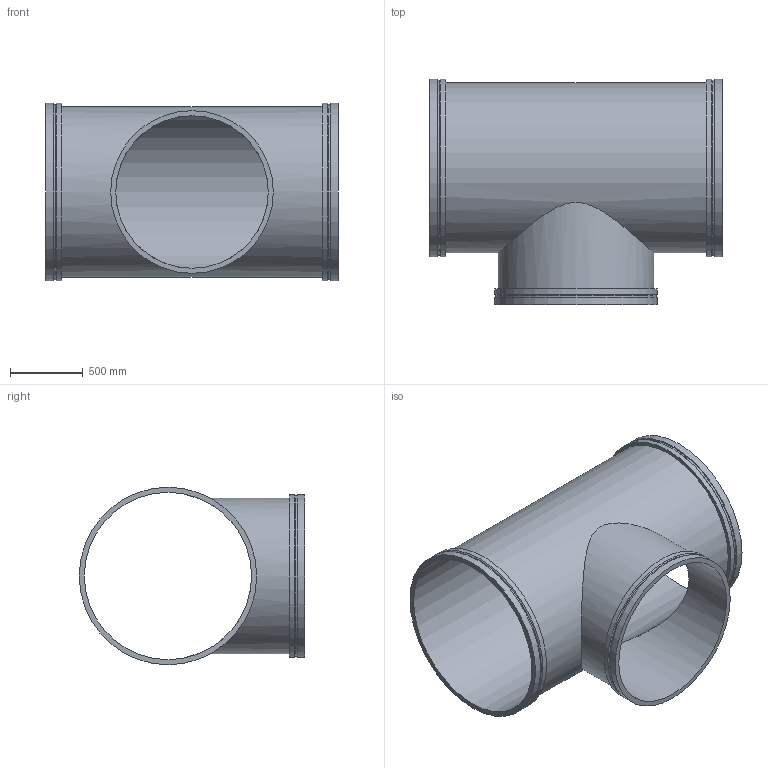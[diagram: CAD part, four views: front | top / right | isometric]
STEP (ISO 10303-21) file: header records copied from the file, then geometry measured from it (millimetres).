
FILE_DESCRIPTION(/* description */ ('VIC REDUCING TEE No W025 VR','CAx-IF Rec.Pracs.---Representation and Presentation of Product Manufacturing Information (PMI)---4.0---2014-10-13'),/* implementation_level */ '2;1');
FILE_NAME(/* name */ 'C:\Users\kkamble\AppData\Roaming\Autodesk\ApplicationPlugins\Back Up\Victaulic_Vic-Ring_Tee Reducing_No W25 VR (AGR)\Victaulic_Vic-Ring_Tee Reducing_No W25 VR (AGR)_46.0x42.0 (1150x1050).stp',/* time_stamp */ '2020-09-10T11:56:57+05:00',/* author */ ('mchristi'),/* organization */ ('Victaulic'),/* preprocessor_version */ 'ST-DEVELOPER v17.2',/* originating_system */ 'Autodesk Inventor 2019',/* authorisation */ '');
FILE_SCHEMA (('AP242_MANAGED_MODEL_BASED_3D_ENGINEERING_MIM_LF { 1 0 10303 442 1 1 4 }'));
Length unit declared in the file: inch
Products named in the file (1): W25 VR-46.0x42.0
Bounding box: 2006.6 x 1549.4 x 1219.2 mm (x, y, z)
Volume: 104555648 mm3; surface area: 16803326.1 mm2
Topology: 1 solids, 1 shells, 25 faces, 68 edges, 52 vertices
Faces by surface type: cylinder 13, plane 9, cone 3
Full cylindrical faces by diameter (mm): 1047.75 x1, 1066.8 x1, 1101.725 x1, 1117.6 x2, 1149.35 x1, 1168.4 x1, 1203.325 x2, 1219.2 x4
Entity records: 1267 total; most frequent: CARTESIAN_POINT 423, DIRECTION 190, ORIENTED_EDGE 136, AXIS2_PLACEMENT_3D 87, EDGE_CURVE 68, VERTEX_POINT 52, CIRCLE 48, EDGE_LOOP 36
